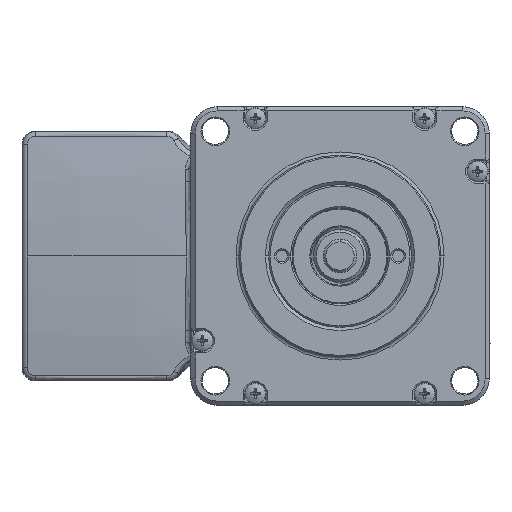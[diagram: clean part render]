
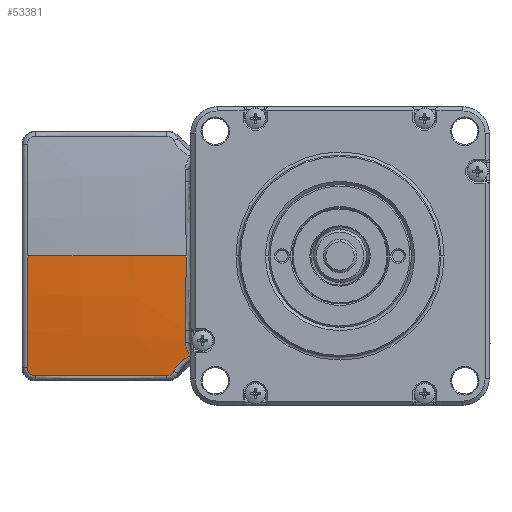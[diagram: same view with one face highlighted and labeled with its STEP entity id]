
A CAD part, left-side view. The second image highlights one B-rep face of the part: STEP entity #53381.
In plain terms, the highlighted free-form (B-spline) face has degree [3, 3] with [4, 4] control points.
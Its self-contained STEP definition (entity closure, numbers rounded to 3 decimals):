
#19663=CARTESIAN_POINT('',(-57.607,-22.648,
-45.879));
#19678=CARTESIAN_POINT('',(-32.757,-22.638,
-44.815));
#19689=CARTESIAN_POINT('',(-31.417,-21.806,
-44.708));
#19700=CARTESIAN_POINT('',(-28.259,-18.848,
-44.392));
#19732=CARTESIAN_POINT('',(-29.064,0.,
-43.501));
#19733=CARTESIAN_POINT('',(-29.064,-1.172,
-43.501));
#19734=CARTESIAN_POINT('',(-29.078,-3.517,
-43.522));
#19735=CARTESIAN_POINT('',(-29.124,-7.034,
-43.615));
#19736=CARTESIAN_POINT('',(-29.177,-10.55,
-43.77));
#19737=CARTESIAN_POINT('',(-29.198,-12.892,
-43.915));
#19738=CARTESIAN_POINT('',(-29.198,-14.063,
-43.998));
#19743=CARTESIAN_POINT('',(-29.198,-16.419,
-44.178));
#19744=CARTESIAN_POINT('',(-29.198,-16.652,
-44.197));
#19745=CARTESIAN_POINT('',(-29.164,-16.997,
-44.226));
#19746=CARTESIAN_POINT('',(-29.054,-17.448,
-44.265));
#19747=CARTESIAN_POINT('',(-28.939,-17.778,
-44.294));
#19748=CARTESIAN_POINT('',(-28.793,-18.093,
-44.323));
#19749=CARTESIAN_POINT('',(-28.58,-18.458,
-44.356));
#19750=CARTESIAN_POINT('',(-28.389,-18.705,
-44.379));
#19751=CARTESIAN_POINT('',(-28.259,-18.848,
-44.392));
#19756=CARTESIAN_POINT('',(-28.259,-18.848,
-44.392));
#19757=CARTESIAN_POINT('',(-28.606,-18.989,
-44.406));
#19758=CARTESIAN_POINT('',(-29.097,-19.246,
-44.431));
#19759=CARTESIAN_POINT('',(-29.695,-19.671,
-44.475));
#19760=CARTESIAN_POINT('',(-30.115,-20.032,
-44.513));
#19761=CARTESIAN_POINT('',(-30.503,-20.432,
-44.555));
#19762=CARTESIAN_POINT('',(-30.85,-20.86,
-44.602));
#19763=CARTESIAN_POINT('',(-31.156,-21.317,
-44.653));
#19764=CARTESIAN_POINT('',(-31.335,-21.64,
-44.689));
#19765=CARTESIAN_POINT('',(-31.417,-21.806,
-44.708));
#19770=CARTESIAN_POINT('',(-31.417,-21.806,
-44.708));
#19771=CARTESIAN_POINT('',(-31.479,-21.931,
-44.723));
#19772=CARTESIAN_POINT('',(-31.595,-22.101,
-44.742));
#19773=CARTESIAN_POINT('',(-31.797,-22.295,
-44.766));
#19774=CARTESIAN_POINT('',(-31.964,-22.416,
-44.781));
#19775=CARTESIAN_POINT('',(-32.148,-22.514,
-44.794));
#19776=CARTESIAN_POINT('',(-32.344,-22.585,
-44.804));
#19777=CARTESIAN_POINT('',(-32.547,-22.628,
-44.811));
#19778=CARTESIAN_POINT('',(-32.687,-22.638,
-44.814));
#19779=CARTESIAN_POINT('',(-32.757,-22.638,
-44.815));
#19784=CARTESIAN_POINT('',(-32.757,-22.638,
-44.815));
#19785=CARTESIAN_POINT('',(-41.051,-22.639,
-44.91));
#19786=CARTESIAN_POINT('',(-49.335,-22.642,
-45.265));
#19787=CARTESIAN_POINT('',(-57.607,-22.648,
-45.879));
#19792=CARTESIAN_POINT('',(-57.607,-22.648,
-45.879));
#19793=CARTESIAN_POINT('',(-57.707,-22.648,
-45.887));
#19794=CARTESIAN_POINT('',(-57.853,-22.633,
-45.896));
#19795=CARTESIAN_POINT('',(-58.044,-22.585,
-45.905));
#19796=CARTESIAN_POINT('',(-58.231,-22.518,
-45.911));
#19797=CARTESIAN_POINT('',(-58.447,-22.403,
-45.914));
#19798=CARTESIAN_POINT('',(-58.64,-22.244,
-45.911));
#19799=CARTESIAN_POINT('',(-58.772,-22.098,
-45.905));
#19800=CARTESIAN_POINT('',(-58.86,-21.979,
-45.898));
#19801=CARTESIAN_POINT('',(-58.936,-21.851,
-45.89));
#19802=CARTESIAN_POINT('',(-59.02,-21.673,
-45.877));
#19803=CARTESIAN_POINT('',(-59.091,-21.436,
-45.857));
#19804=CARTESIAN_POINT('',(-59.111,-21.238,
-45.837));
#19805=CARTESIAN_POINT('',(-59.111,-21.14,
-45.826));
#19810=CARTESIAN_POINT('',(-59.103,0.,-243.));
#19811=DIRECTION('',(-1.,0.,0.));
#19812=DIRECTION('',(0.,-0.107,0.994));
#19813=AXIS2_PLACEMENT_3D('',#19810,#19811,#19812);
#20541=CARTESIAN_POINT('',(-29.198,0.,-243.));
#20542=DIRECTION('',(-1.,0.,0.));
#20543=DIRECTION('',(0.,-0.082,0.997));
#20544=AXIS2_PLACEMENT_3D('',#20541,#20542,#20543);
#20757=CARTESIAN_POINT('',(-28.2,0.,-443.5));
#20758=DIRECTION('',(0.,-1.,0.));
#20759=DIRECTION('',(-0.002,0.,1.));
#20760=AXIS2_PLACEMENT_3D('',#20757,#20758,#20759);
#39900=CARTESIAN_POINT('',(-59.103,0.,
-44.696));
#39901=VERTEX_POINT('',#39900);
#39902=CARTESIAN_POINT('',(-59.103,-21.14,
-45.826));
#39903=VERTEX_POINT('',#39902);
#39907=VERTEX_POINT('',#19663);
#39909=VERTEX_POINT('',#19678);
#39911=VERTEX_POINT('',#19689);
#39914=VERTEX_POINT('',#19700);
#39916=CARTESIAN_POINT('',(-29.198,-16.419,
-44.178));
#39917=VERTEX_POINT('',#39916);
#39918=VERTEX_POINT('',#19732);
#39919=VERTEX_POINT('',#19738);
#53350=CARTESIAN_POINT('',(-27.641,-23.224,
-44.857));
#53351=CARTESIAN_POINT('',(-38.35,-23.226,
-44.842));
#53352=CARTESIAN_POINT('',(-49.051,-23.178,
-45.254));
#53353=CARTESIAN_POINT('',(-59.726,-23.08,
-46.092));
#53354=CARTESIAN_POINT('',(-27.641,-15.362,
-43.935));
#53355=CARTESIAN_POINT('',(-38.35,-15.364,
-43.92));
#53356=CARTESIAN_POINT('',(-49.051,-15.332,
-44.334));
#53357=CARTESIAN_POINT('',(-59.726,-15.267,
-45.177));
#53358=CARTESIAN_POINT('',(-27.641,-7.459,
-43.483));
#53359=CARTESIAN_POINT('',(-38.35,-7.46,
-43.468));
#53360=CARTESIAN_POINT('',(-49.051,-7.444,
-43.883));
#53361=CARTESIAN_POINT('',(-59.726,-7.413,
-44.727));
#53362=CARTESIAN_POINT('',(-27.641,0.456,
-43.501));
#53363=CARTESIAN_POINT('',(-38.35,0.456,
-43.486));
#53364=CARTESIAN_POINT('',(-49.051,0.456,
-43.901));
#53365=CARTESIAN_POINT('',(-59.726,0.454,
-44.745));
#53366=(BOUNDED_SURFACE()B_SPLINE_SURFACE(3,3,((#53350,#53351,#53352,#53353),(
#53354,#53355,#53356,#53357),(#53358,#53359,#53360,#53361),(#53362,#53363,
#53364,#53365)),.UNSPECIFIED.,.F.,.F.,.F.)B_SPLINE_SURFACE_WITH_KNOTS((4,4),(4,
4),(0.,1.),(0.,1.),.UNSPECIFIED.)GEOMETRIC_REPRESENTATION_ITEM()RATIONAL_B_SPLINE_SURFACE(((1.001,1.001,1.001,
1.001),(1.,1.,1.,
1.),(1.,1.,1.,
1.),(1.001,1.001,1.001,
1.001)))REPRESENTATION_ITEM('')SURFACE());
#53368=ORIENTED_EDGE('',*,*,#53367,.T.);
#53370=ORIENTED_EDGE('',*,*,#53369,.F.);
#53371=ORIENTED_EDGE('',*,*,#53328,.T.);
#53372=ORIENTED_EDGE('',*,*,#53042,.T.);
#53373=ORIENTED_EDGE('',*,*,#52950,.T.);
#53374=ORIENTED_EDGE('',*,*,#52817,.T.);
#53375=ORIENTED_EDGE('',*,*,#52778,.T.);
#53376=ORIENTED_EDGE('',*,*,#52629,.T.);
#53378=ORIENTED_EDGE('',*,*,#53377,.F.);
#53379=EDGE_LOOP('',(#53368,#53370,#53371,#53372,#53373,#53374,#53375,#53376,
#53378));
#53380=FACE_OUTER_BOUND('',#53379,.F.);
#19739=B_SPLINE_CURVE_WITH_KNOTS('',3,(#19732,#19733,#19734,#19735,#19736,
#19737,#19738),.UNSPECIFIED.,.F.,.F.,(4,1,1,1,4),(0.,0.25,
0.5,0.75,1.),.UNSPECIFIED.);
#19752=B_SPLINE_CURVE_WITH_KNOTS('',3,(#19743,#19744,#19745,#19746,#19747,
#19748,#19749,#19750,#19751),.UNSPECIFIED.,.F.,.F.,(4,1,1,1,1,1,4),(0.,
0.261,0.392,0.522,0.653,
0.783,1.),.UNSPECIFIED.);
#19766=B_SPLINE_CURVE_WITH_KNOTS('',3,(#19756,#19757,#19758,#19759,#19760,
#19761,#19762,#19763,#19764,#19765),.UNSPECIFIED.,.F.,.F.,(4,1,1,1,1,1,1,4),(
0.,0.25,0.375,0.5,0.625,
0.75,0.875,1.),.UNSPECIFIED.);
#19780=B_SPLINE_CURVE_WITH_KNOTS('',3,(#19770,#19771,#19772,#19773,#19774,
#19775,#19776,#19777,#19778,#19779),.UNSPECIFIED.,.F.,.F.,(4,1,1,1,1,1,1,4),(
0.,0.25,0.375,0.5,0.625,
0.75,0.875,1.),.UNSPECIFIED.);
#19788=B_SPLINE_CURVE_WITH_KNOTS('',3,(#19784,#19785,#19786,#19787),
.UNSPECIFIED.,.F.,.F.,(4,4),(0.,1.),.UNSPECIFIED.);
#19806=B_SPLINE_CURVE_WITH_KNOTS('',3,(#19792,#19793,#19794,#19795,#19796,
#19797,#19798,#19799,#19800,#19801,#19802,#19803,#19804,#19805),.UNSPECIFIED.,
.F.,.F.,(4,1,1,1,1,1,1,1,1,1,1,4),(0.,0.125,0.188,
0.25,0.375,0.5,0.563,
0.625,0.688,0.75,0.875,1.),
.UNSPECIFIED.);
#19814=CIRCLE('',#19813,198.304);
#20545=CIRCLE('',#20544,199.499);
#20761=CIRCLE('',#20760,400.);
#52629=EDGE_CURVE('',#39903,#39901,#19814,.T.);
#52778=EDGE_CURVE('',#39907,#39903,#19806,.T.);
#52817=EDGE_CURVE('',#39909,#39907,#19788,.T.);
#52950=EDGE_CURVE('',#39911,#39909,#19780,.T.);
#53042=EDGE_CURVE('',#39914,#39911,#19766,.T.);
#53328=EDGE_CURVE('',#39917,#39914,#19752,.T.);
#53367=EDGE_CURVE('',#39918,#39919,#19739,.T.);
#53369=EDGE_CURVE('',#39917,#39919,#20545,.T.);
#53377=EDGE_CURVE('',#39918,#39901,#20761,.T.);
#53381=ADVANCED_FACE('',(#53380),#53366,.T.);
